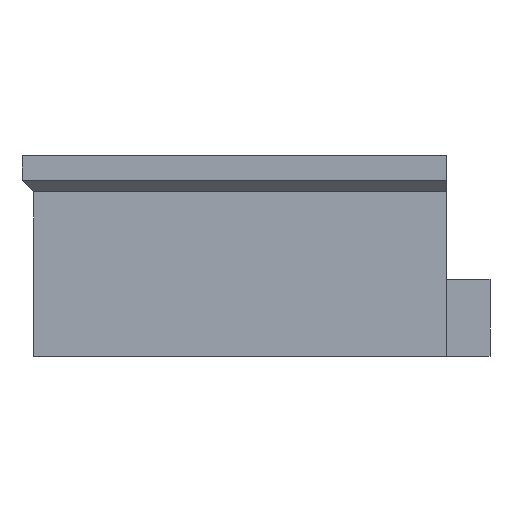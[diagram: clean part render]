
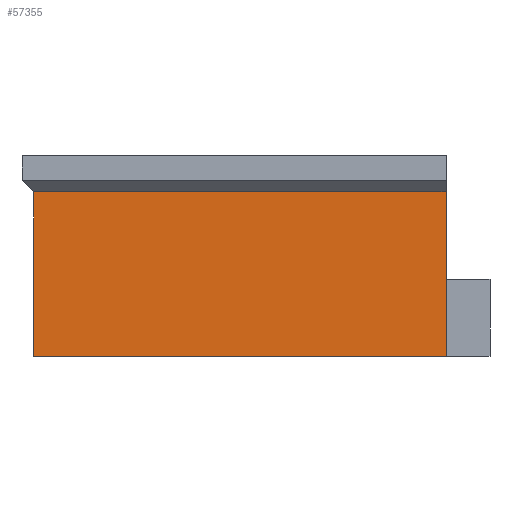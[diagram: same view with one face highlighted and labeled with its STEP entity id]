
A CAD part, front view. The second image highlights one B-rep face of the part: STEP entity #57355.
In plain terms, the highlighted planar face has unit normal (0, -1, 0).
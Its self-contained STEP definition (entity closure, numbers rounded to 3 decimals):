
#762 = PLANE('',#763);
#763 = AXIS2_PLACEMENT_3D('',#764,#765,#766);
#764 = CARTESIAN_POINT('',(0.,0.,0.));
#765 = DIRECTION('',(0.,0.,1.));
#766 = DIRECTION('',(1.,0.,-0.));
#897 = PLANE('',#898);
#898 = AXIS2_PLACEMENT_3D('',#899,#900,#901);
#899 = CARTESIAN_POINT('',(-192.,152.,4.));
#900 = DIRECTION('',(1.,0.,-0.));
#901 = DIRECTION('',(0.,-1.,0.));
#946 = VERTEX_POINT('',#947);
#947 = CARTESIAN_POINT('',(-192.,-176.,29.9));
#982 = B_SPLINE_SURFACE_WITH_KNOTS('',1,1,(
    (#983,#984)
    ,(#985,#986
    )),.UNSPECIFIED.,.F.,.F.,.F.,(2,2),(2,2),(0.,388.2),(0.,1.),
  .PIECEWISE_BEZIER_KNOTS.);
#983 = CARTESIAN_POINT('',(-192.,-176.,29.9));
#984 = CARTESIAN_POINT('',(-194.1,-178.1,32.));
#985 = CARTESIAN_POINT('',(192.,-176.,29.9));
#986 = CARTESIAN_POINT('',(194.1,-178.1,32.));
#1018 = EDGE_CURVE('',#946,#1019,#1021,.T.);
#1019 = VERTEX_POINT('',#1020);
#1020 = CARTESIAN_POINT('',(-117.,-176.,29.9));
#1021 = SURFACE_CURVE('',#1022,(#1026,#1032),.PCURVE_S1.);
#1022 = LINE('',#1023,#1024);
#1023 = CARTESIAN_POINT('',(-192.,-176.,29.9));
#1024 = VECTOR('',#1025,1.);
#1025 = DIRECTION('',(1.,0.,0.));
#1026 = PCURVE('',#982,#1027);
#1027 = DEFINITIONAL_REPRESENTATION('',(#1028),#1031);
#1028 = B_SPLINE_CURVE_WITH_KNOTS('',1,(#1029,#1030),.UNSPECIFIED.,.F.,
  .F.,(2,2),(0.,384.),.PIECEWISE_BEZIER_KNOTS.);
#1029 = CARTESIAN_POINT('',(0.,0.));
#1030 = CARTESIAN_POINT('',(388.2,0.));
#1031 = ( GEOMETRIC_REPRESENTATION_CONTEXT(2) 
PARAMETRIC_REPRESENTATION_CONTEXT() REPRESENTATION_CONTEXT('2D SPACE',''
  ) );
#1032 = PCURVE('',#1033,#1038);
#1033 = PLANE('',#1034);
#1034 = AXIS2_PLACEMENT_3D('',#1035,#1036,#1037);
#1035 = CARTESIAN_POINT('',(-192.,-176.,4.));
#1036 = DIRECTION('',(0.,1.,0.));
#1037 = DIRECTION('',(1.,0.,0.));
#1038 = DEFINITIONAL_REPRESENTATION('',(#1039),#1043);
#1039 = LINE('',#1040,#1041);
#1040 = CARTESIAN_POINT('',(0.,-25.9));
#1041 = VECTOR('',#1042,1.);
#1042 = DIRECTION('',(1.,0.));
#1043 = ( GEOMETRIC_REPRESENTATION_CONTEXT(2) 
PARAMETRIC_REPRESENTATION_CONTEXT() REPRESENTATION_CONTEXT('2D SPACE',''
  ) );
#1065 = PLANE('',#1066);
#1066 = AXIS2_PLACEMENT_3D('',#1067,#1068,#1069);
#1067 = CARTESIAN_POINT('',(-117.,-200.,3.));
#1068 = DIRECTION('',(1.,0.,-0.));
#1069 = DIRECTION('',(0.,0.,1.));
#1338 = EDGE_CURVE('',#1339,#1019,#1341,.T.);
#1339 = VERTEX_POINT('',#1340);
#1340 = CARTESIAN_POINT('',(-117.,-176.,0.));
#1341 = SURFACE_CURVE('',#1342,(#1346,#1353),.PCURVE_S1.);
#1342 = LINE('',#1343,#1344);
#1343 = CARTESIAN_POINT('',(-117.,-176.,0.));
#1344 = VECTOR('',#1345,1.);
#1345 = DIRECTION('',(0.,0.,1.));
#1346 = PCURVE('',#1065,#1347);
#1347 = DEFINITIONAL_REPRESENTATION('',(#1348),#1352);
#1348 = LINE('',#1349,#1350);
#1349 = CARTESIAN_POINT('',(-3.,-24.));
#1350 = VECTOR('',#1351,1.);
#1351 = DIRECTION('',(1.,0.));
#1352 = ( GEOMETRIC_REPRESENTATION_CONTEXT(2) 
PARAMETRIC_REPRESENTATION_CONTEXT() REPRESENTATION_CONTEXT('2D SPACE',''
  ) );
#1353 = PCURVE('',#1033,#1354);
#1354 = DEFINITIONAL_REPRESENTATION('',(#1355),#1359);
#1355 = LINE('',#1356,#1357);
#1356 = CARTESIAN_POINT('',(75.,4.));
#1357 = VECTOR('',#1358,1.);
#1358 = DIRECTION('',(0.,-1.));
#1359 = ( GEOMETRIC_REPRESENTATION_CONTEXT(2) 
PARAMETRIC_REPRESENTATION_CONTEXT() REPRESENTATION_CONTEXT('2D SPACE',''
  ) );
#57355 = ADVANCED_FACE('',(#57356),#1033,.F.);
#57356 = FACE_BOUND('',#57357,.F.);
#57357 = EDGE_LOOP('',(#57358,#57359,#57382,#57403));
#57358 = ORIENTED_EDGE('',*,*,#1338,.F.);
#57359 = ORIENTED_EDGE('',*,*,#57360,.F.);
#57360 = EDGE_CURVE('',#57361,#1339,#57363,.T.);
#57361 = VERTEX_POINT('',#57362);
#57362 = CARTESIAN_POINT('',(-192.,-176.,0.));
#57363 = SURFACE_CURVE('',#57364,(#57368,#57375),.PCURVE_S1.);
#57364 = LINE('',#57365,#57366);
#57365 = CARTESIAN_POINT('',(-96.,-176.,0.));
#57366 = VECTOR('',#57367,1.);
#57367 = DIRECTION('',(1.,0.,0.));
#57368 = PCURVE('',#1033,#57369);
#57369 = DEFINITIONAL_REPRESENTATION('',(#57370),#57374);
#57370 = LINE('',#57371,#57372);
#57371 = CARTESIAN_POINT('',(96.,4.));
#57372 = VECTOR('',#57373,1.);
#57373 = DIRECTION('',(1.,0.));
#57374 = ( GEOMETRIC_REPRESENTATION_CONTEXT(2) 
PARAMETRIC_REPRESENTATION_CONTEXT() REPRESENTATION_CONTEXT('2D SPACE',''
  ) );
#57375 = PCURVE('',#762,#57376);
#57376 = DEFINITIONAL_REPRESENTATION('',(#57377),#57381);
#57377 = LINE('',#57378,#57379);
#57378 = CARTESIAN_POINT('',(-96.,-176.));
#57379 = VECTOR('',#57380,1.);
#57380 = DIRECTION('',(1.,0.));
#57381 = ( GEOMETRIC_REPRESENTATION_CONTEXT(2) 
PARAMETRIC_REPRESENTATION_CONTEXT() REPRESENTATION_CONTEXT('2D SPACE',''
  ) );
#57382 = ORIENTED_EDGE('',*,*,#57383,.T.);
#57383 = EDGE_CURVE('',#57361,#946,#57384,.T.);
#57384 = SURFACE_CURVE('',#57385,(#57389,#57396),.PCURVE_S1.);
#57385 = LINE('',#57386,#57387);
#57386 = CARTESIAN_POINT('',(-192.,-176.,0.));
#57387 = VECTOR('',#57388,1.);
#57388 = DIRECTION('',(0.,0.,1.));
#57389 = PCURVE('',#1033,#57390);
#57390 = DEFINITIONAL_REPRESENTATION('',(#57391),#57395);
#57391 = LINE('',#57392,#57393);
#57392 = CARTESIAN_POINT('',(0.,4.));
#57393 = VECTOR('',#57394,1.);
#57394 = DIRECTION('',(0.,-1.));
#57395 = ( GEOMETRIC_REPRESENTATION_CONTEXT(2) 
PARAMETRIC_REPRESENTATION_CONTEXT() REPRESENTATION_CONTEXT('2D SPACE',''
  ) );
#57396 = PCURVE('',#897,#57397);
#57397 = DEFINITIONAL_REPRESENTATION('',(#57398),#57402);
#57398 = LINE('',#57399,#57400);
#57399 = CARTESIAN_POINT('',(328.,4.));
#57400 = VECTOR('',#57401,1.);
#57401 = DIRECTION('',(0.,-1.));
#57402 = ( GEOMETRIC_REPRESENTATION_CONTEXT(2) 
PARAMETRIC_REPRESENTATION_CONTEXT() REPRESENTATION_CONTEXT('2D SPACE',''
  ) );
#57403 = ORIENTED_EDGE('',*,*,#1018,.T.);
